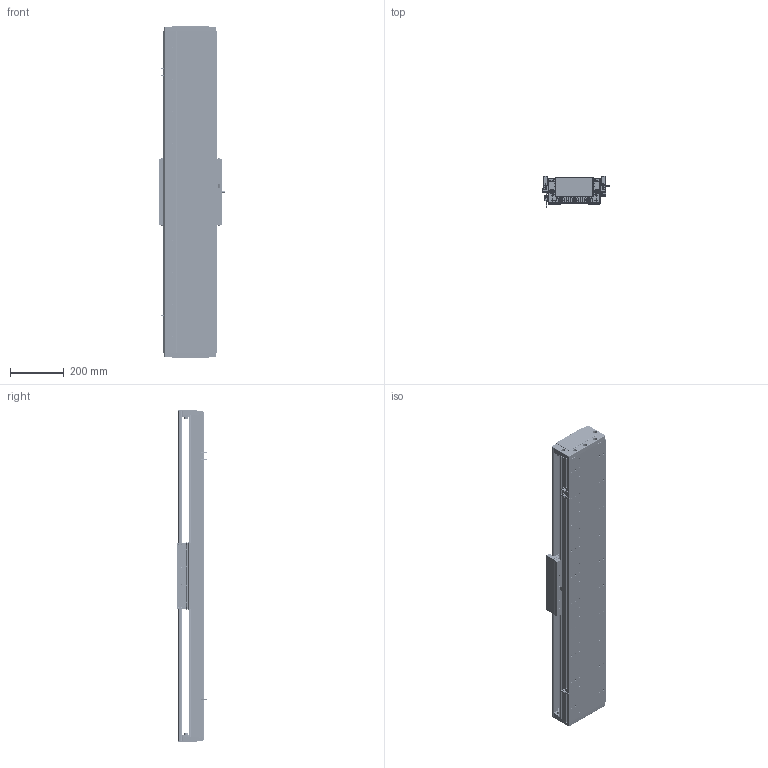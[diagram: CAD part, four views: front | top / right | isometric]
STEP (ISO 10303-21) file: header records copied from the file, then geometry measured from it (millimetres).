
FILE_DESCRIPTION (( 'STEP AP203' ), '1' );
FILE_NAME ('DA-C195-C3-T900-C010-0.2 眻盄萇儂.STEP', '2025-08-15T01:41:23', ( '' ), ( '' ), 'SwSTEP 2.0', 'SolidWorks 2019', '' );
FILE_SCHEMA (( 'CONFIG_CONTROL_DESIGN' ));
Length unit declared in the file: millimetre
Products named in the file (12): DA95-HXJ-00 遣喳砎蝶; IU-CU195-L-00 菁釱(L1200); LMT黍杅芛; MS200 棠掑喜S315-T240; CU195-C3賑輸-俋楷; DA165-GYP-00 光电感应片(默认); 葩璃 DA95-GT-T-00; 66156-0001-003-00 裔啣; DA195-DG-H-00  端盖（压铸镂空版）; IU-CU195-L 菁釱絳寢; DA-C195-C3-T900-C010-0.2 眻盄萇儂; PM-T45ㄗ侂狟ㄘ
Assembly tree (20 placements, depth 3):
  DA-C195-C3-T900-C010-0.2 眻盄萇儂
    IU-CU195-L 菁釱絳寢
      IU-CU195-L-00 菁釱(L1200)
      葩璃 DA95-GT-T-00  x4
    LMT黍杅芛
    MS200 棠掑喜S315-T240
    PM-T45ㄗ侂狟ㄘ  x3
    DA165-GYP-00 光电感应片(默认)
    DA195-DG-H-00  端盖（压铸镂空版）  x2
    DA95-HXJ-00 遣喳砎蝶  x4
    66156-0001-003-00 裔啣
    CU195-C3賑輸-俋楷
Bounding box: 248 x 115.6 x 1240 mm (x, y, z)
Volume: 9029434.1 mm3; surface area: 2551271 mm2
Topology: 78 solids, 118 shells, 5205 faces, 13384 edges, 8147 vertices
Faces by surface type: cylinder 2272, plane 1599, bspline 710, cone 544, torus 44, sphere 36
Entity records: 144561 total; most frequent: CARTESIAN_POINT 44961, ORIENTED_EDGE 20854, DIRECTION 19974, EDGE_CURVE 10427, AXIS2_PLACEMENT_3D 7431, VERTEX_POINT 6577, VECTOR 5112, LINE 5112
